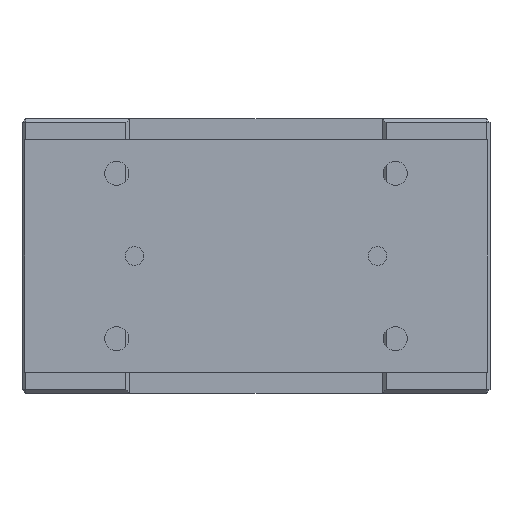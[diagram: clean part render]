
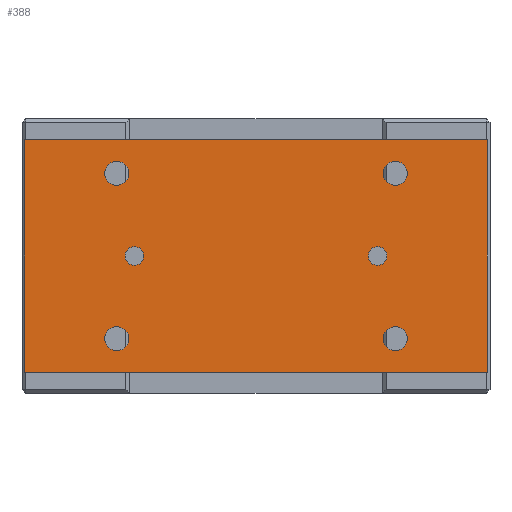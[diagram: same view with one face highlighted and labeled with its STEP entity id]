
A CAD part, left-side view. The second image highlights one B-rep face of the part: STEP entity #388.
In plain terms, the highlighted planar face has unit normal (-1, 0, 0).
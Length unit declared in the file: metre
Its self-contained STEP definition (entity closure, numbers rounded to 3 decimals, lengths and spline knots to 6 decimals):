
#388 = ADVANCED_FACE( '', ( #977, #978, #979, #980, #981, #982, #983 ), #984, .T. );
#977 = FACE_BOUND( '', #1871, .T. );
#978 = FACE_BOUND( '', #1872, .T. );
#979 = FACE_BOUND( '', #1873, .T. );
#980 = FACE_BOUND( '', #1874, .T. );
#981 = FACE_BOUND( '', #1875, .T. );
#982 = FACE_BOUND( '', #1876, .T. );
#983 = FACE_OUTER_BOUND( '', #1877, .T. );
#984 = PLANE( '', #1878 );
#1871 = EDGE_LOOP( '', ( #2960 ) );
#1872 = EDGE_LOOP( '', ( #2961 ) );
#1873 = EDGE_LOOP( '', ( #2962 ) );
#1874 = EDGE_LOOP( '', ( #2963 ) );
#1875 = EDGE_LOOP( '', ( #2964 ) );
#1876 = EDGE_LOOP( '', ( #2965 ) );
#1877 = EDGE_LOOP( '', ( #2966, #2967, #2968, #2969 ) );
#1878 = AXIS2_PLACEMENT_3D( '', #2970, #2971, #2972 );
#2960 = ORIENTED_EDGE( '', *, *, #4513, .F. );
#2961 = ORIENTED_EDGE( '', *, *, #4514, .T. );
#2962 = ORIENTED_EDGE( '', *, *, #4515, .F. );
#2963 = ORIENTED_EDGE( '', *, *, #4516, .F. );
#2964 = ORIENTED_EDGE( '', *, *, #4517, .F. );
#2965 = ORIENTED_EDGE( '', *, *, #4518, .F. );
#2966 = ORIENTED_EDGE( '', *, *, #4519, .T. );
#2967 = ORIENTED_EDGE( '', *, *, #4339, .T. );
#2968 = ORIENTED_EDGE( '', *, *, #4520, .T. );
#2969 = ORIENTED_EDGE( '', *, *, #4521, .T. );
#2970 = CARTESIAN_POINT( '', ( -0.143, -0.1245, -0.0115 ) );
#2971 = DIRECTION( '', ( -1., 0., 0. ) );
#2972 = DIRECTION( '', ( 0., 0., 1. ) );
#4339 = EDGE_CURVE( '', #5013, #5011, #5014, .T. );
#4513 = EDGE_CURVE( '', #5301, #5301, #5302, .T. );
#4514 = EDGE_CURVE( '', #5303, #5303, #5304, .T. );
#4515 = EDGE_CURVE( '', #5305, #5305, #5306, .T. );
#4516 = EDGE_CURVE( '', #5307, #5307, #5308, .T. );
#4517 = EDGE_CURVE( '', #5309, #5309, #5310, .T. );
#4518 = EDGE_CURVE( '', #5311, #5311, #5312, .T. );
#4519 = EDGE_CURVE( '', #5313, #5013, #5314, .T. );
#4520 = EDGE_CURVE( '', #5011, #5315, #5316, .T. );
#4521 = EDGE_CURVE( '', #5315, #5313, #5317, .T. );
#5011 = VERTEX_POINT( '', #5964 );
#5013 = VERTEX_POINT( '', #5967 );
#5014 = LINE( '', #5968, #5969 );
#5301 = VERTEX_POINT( '', #6400 );
#5302 = CIRCLE( '', #6401, 0.005 );
#5303 = VERTEX_POINT( '', #6402 );
#5304 = CIRCLE( '', #6403, 0.005 );
#5305 = VERTEX_POINT( '', #6404 );
#5306 = CIRCLE( '', #6405, 0.0065 );
#5307 = VERTEX_POINT( '', #6406 );
#5308 = CIRCLE( '', #6407, 0.0065 );
#5309 = VERTEX_POINT( '', #6408 );
#5310 = CIRCLE( '', #6409, 0.0065 );
#5311 = VERTEX_POINT( '', #6410 );
#5312 = CIRCLE( '', #6411, 0.0065 );
#5313 = VERTEX_POINT( '', #6412 );
#5314 = LINE( '', #6413, #6414 );
#5315 = VERTEX_POINT( '', #6415 );
#5316 = LINE( '', #6416, #6417 );
#5317 = LINE( '', #6418, #6419 );
#5964 = CARTESIAN_POINT( '', ( -0.143, 0.1245, -0.0115 ) );
#5967 = CARTESIAN_POINT( '', ( -0.143, -0.1245, -0.0115 ) );
#5968 = CARTESIAN_POINT( '', ( -0.143, -0.1245, -0.0115 ) );
#5969 = VECTOR( '', #7361, 1. );
#6400 = CARTESIAN_POINT( '', ( -0.143, -0.0705, -0.074 ) );
#6401 = AXIS2_PLACEMENT_3D( '', #7572, #7573, #7574 );
#6402 = CARTESIAN_POINT( '', ( -0.143, 0.0705, -0.074 ) );
#6403 = AXIS2_PLACEMENT_3D( '', #7575, #7576, #7577 );
#6404 = CARTESIAN_POINT( '', ( -0.143, -0.075, -0.112 ) );
#6405 = AXIS2_PLACEMENT_3D( '', #7578, #7579, #7580 );
#6406 = CARTESIAN_POINT( '', ( -0.143, 0.075, -0.112 ) );
#6407 = AXIS2_PLACEMENT_3D( '', #7581, #7582, #7583 );
#6408 = CARTESIAN_POINT( '', ( -0.143, -0.075, -0.023 ) );
#6409 = AXIS2_PLACEMENT_3D( '', #7584, #7585, #7586 );
#6410 = CARTESIAN_POINT( '', ( -0.143, 0.075, -0.023 ) );
#6411 = AXIS2_PLACEMENT_3D( '', #7587, #7588, #7589 );
#6412 = CARTESIAN_POINT( '', ( -0.143, -0.1245, -0.1365 ) );
#6413 = CARTESIAN_POINT( '', ( -0.143, -0.1245, -0.1365 ) );
#6414 = VECTOR( '', #7590, 1. );
#6415 = CARTESIAN_POINT( '', ( -0.143, 0.1245, -0.1365 ) );
#6416 = CARTESIAN_POINT( '', ( -0.143, 0.1245, -0.0115 ) );
#6417 = VECTOR( '', #7591, 1. );
#6418 = CARTESIAN_POINT( '', ( -0.143, 0.1245, -0.1365 ) );
#6419 = VECTOR( '', #7592, 1. );
#7361 = DIRECTION( '', ( 0., 1., 0. ) );
#7572 = CARTESIAN_POINT( '', ( -0.143, -0.0655, -0.074 ) );
#7573 = DIRECTION( '', ( -1., 0., 0. ) );
#7574 = DIRECTION( '', ( 0., -1., 0. ) );
#7575 = CARTESIAN_POINT( '', ( -0.143, 0.0655, -0.074 ) );
#7576 = DIRECTION( '', ( 1., 0., 0. ) );
#7577 = DIRECTION( '', ( 0., 1., 0. ) );
#7578 = CARTESIAN_POINT( '', ( -0.143, -0.075, -0.1185 ) );
#7579 = DIRECTION( '', ( -1., 0., 0. ) );
#7580 = DIRECTION( '', ( 0., 0., 1. ) );
#7581 = CARTESIAN_POINT( '', ( -0.143, 0.075, -0.1185 ) );
#7582 = DIRECTION( '', ( -1., 0., 0. ) );
#7583 = DIRECTION( '', ( 0., 0., 1. ) );
#7584 = CARTESIAN_POINT( '', ( -0.143, -0.075, -0.0295 ) );
#7585 = DIRECTION( '', ( -1., 0., 0. ) );
#7586 = DIRECTION( '', ( 0., 0., 1. ) );
#7587 = CARTESIAN_POINT( '', ( -0.143, 0.075, -0.0295 ) );
#7588 = DIRECTION( '', ( -1., 0., 0. ) );
#7589 = DIRECTION( '', ( 0., 0., 1. ) );
#7590 = DIRECTION( '', ( 0., 0., 1. ) );
#7591 = DIRECTION( '', ( 0., 0., -1. ) );
#7592 = DIRECTION( '', ( 0., -1., 0. ) );
